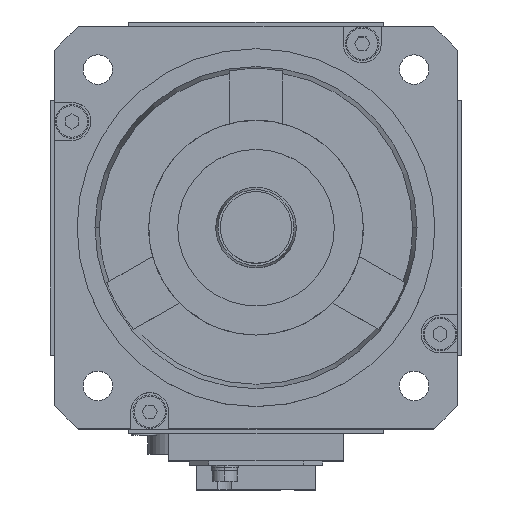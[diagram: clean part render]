
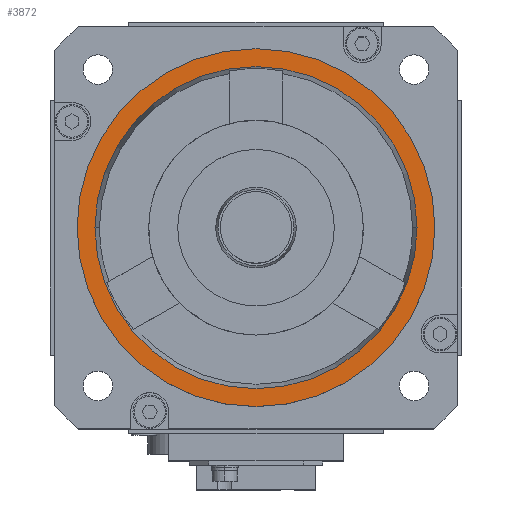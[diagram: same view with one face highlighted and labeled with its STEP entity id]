
A CAD part, top view. The second image highlights one B-rep face of the part: STEP entity #3872.
In plain terms, the highlighted planar face has unit normal (0, 0, 1).
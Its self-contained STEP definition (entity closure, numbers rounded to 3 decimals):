
#945 = EDGE_CURVE ( 'NONE', #947, #952, #5636, .T. ) ;
#947 = VERTEX_POINT ( 'NONE', #5696 ) ;
#952 = VERTEX_POINT ( 'NONE', #5689 ) ;
#3755 = EDGE_LOOP ( 'NONE', ( #3756, #3759 ) ) ;
#3756 = ORIENTED_EDGE ( 'NONE', *, *, #3758, .T. ) ;
#3758 = EDGE_CURVE ( 'NONE', #952, #947, #10818, .T. ) ;
#3759 = ORIENTED_EDGE ( 'NONE', *, *, #945, .T. ) ;
#3760 = EDGE_LOOP ( 'NONE', ( #3761, #3762 ) ) ;
#3761 = ORIENTED_EDGE ( 'NONE', *, *, #3876, .F. ) ;
#3762 = ORIENTED_EDGE ( 'NONE', *, *, #17018, .F. ) ;
#3872 = ADVANCED_FACE ( 'NONE', ( #10734, #10733 ), #10732, .T. ) ;
#3876 = EDGE_CURVE ( 'NONE', #17007, #17013, #11021, .T. ) ;
#4320 = DIRECTION ( 'NONE',  ( 1., 0., 0. ) ) ;
#5633 = DIRECTION ( 'NONE',  ( 0., 0., 1. ) ) ;
#5634 = CARTESIAN_POINT ( 'NONE',  ( 0., 0., 5. ) ) ;
#5635 = AXIS2_PLACEMENT_3D ( 'NONE', #5634, #5633, #4320 ) ;
#5636 = CIRCLE ( 'NONE', #5635, 40. ) ;
#5689 = CARTESIAN_POINT ( 'NONE',  ( -40., 0., 5. ) ) ;
#5696 = CARTESIAN_POINT ( 'NONE',  ( 40., 0., 5. ) ) ;
#10728 = DIRECTION ( 'NONE',  ( 1., 0., 0. ) ) ;
#10729 = DIRECTION ( 'NONE',  ( 0., 0., 1. ) ) ;
#10730 = CARTESIAN_POINT ( 'NONE',  ( 0., 0., 5. ) ) ;
#10731 = AXIS2_PLACEMENT_3D ( 'NONE', #10730, #10729, #10728 ) ;
#10732 = PLANE ( 'NONE',  #10731 ) ;
#10733 = FACE_BOUND ( 'NONE', #3760, .T. ) ;
#10734 = FACE_OUTER_BOUND ( 'NONE', #3755, .T. ) ;
#10814 = DIRECTION ( 'NONE',  ( 1., 0., 0. ) ) ;
#10815 = DIRECTION ( 'NONE',  ( 0., 0., 1. ) ) ;
#10816 = CARTESIAN_POINT ( 'NONE',  ( 0., 0., 5. ) ) ;
#10817 = AXIS2_PLACEMENT_3D ( 'NONE', #10816, #10815, #10814 ) ;
#10818 = CIRCLE ( 'NONE', #10817, 40. ) ;
#11017 = DIRECTION ( 'NONE',  ( 1., 0., 0. ) ) ;
#11018 = DIRECTION ( 'NONE',  ( 0., 0., 1. ) ) ;
#11019 = CARTESIAN_POINT ( 'NONE',  ( 0., 0., 5. ) ) ;
#11020 = AXIS2_PLACEMENT_3D ( 'NONE', #11019, #11018, #11017 ) ;
#11021 = CIRCLE ( 'NONE', #11020, 36. ) ;
#14315 = CARTESIAN_POINT ( 'NONE',  ( 36., 0., 5. ) ) ;
#14353 = DIRECTION ( 'NONE',  ( 1., 0., 0. ) ) ;
#14354 = DIRECTION ( 'NONE',  ( 0., 0., 1. ) ) ;
#14355 = CARTESIAN_POINT ( 'NONE',  ( 0., 0., 5. ) ) ;
#14356 = AXIS2_PLACEMENT_3D ( 'NONE', #14355, #14354, #14353 ) ;
#14357 = CIRCLE ( 'NONE', #14356, 36. ) ;
#14369 = CARTESIAN_POINT ( 'NONE',  ( -36., 0., 5. ) ) ;
#17007 = VERTEX_POINT ( 'NONE', #14315 ) ;
#17013 = VERTEX_POINT ( 'NONE', #14369 ) ;
#17018 = EDGE_CURVE ( 'NONE', #17013, #17007, #14357, .T. ) ;
